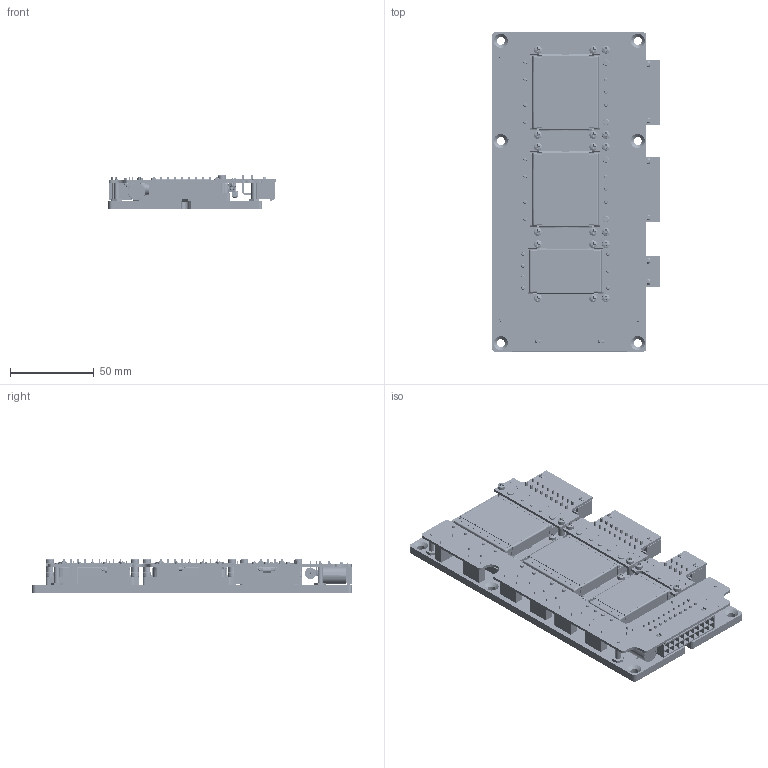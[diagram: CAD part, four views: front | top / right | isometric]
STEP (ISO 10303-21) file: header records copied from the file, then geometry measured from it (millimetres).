
FILE_DESCRIPTION (( 'STEP AP214' ), '1' );
FILE_NAME ('VA-E-PLUG-2OUT.STEP', '2011-02-19T00:10:50', ( 'Vicor Employee' ), ( 'Vicor Corporation' ), 'SwSTEP 2.0', 'SolidWorks 2011', '' );
FILE_SCHEMA (( 'AUTOMOTIVE_DESIGN' ));
Length unit declared in the file: inch
Products named in the file (1): VA-E-PLUG-2OUT
Bounding box: 100.3 x 191.57 x 20.73 mm (x, y, z)
Volume: 148571.8 mm3; surface area: 150192.2 mm2
Topology: 1 solids, 1 shells, 6465 faces, 16970 edges, 10739 vertices
Faces by surface type: plane 3644, cylinder 1935, bspline 340, cone 270, torus 180, sphere 96
Entity records: 320140 total; most frequent: CARTESIAN_POINT 79824, ORIENTED_EDGE 33676, DIRECTION 31157, EDGE_CURVE 16838, LINE 10811, VECTOR 10811, VERTEX_POINT 10739, AXIS2_PLACEMENT_3D 10173
